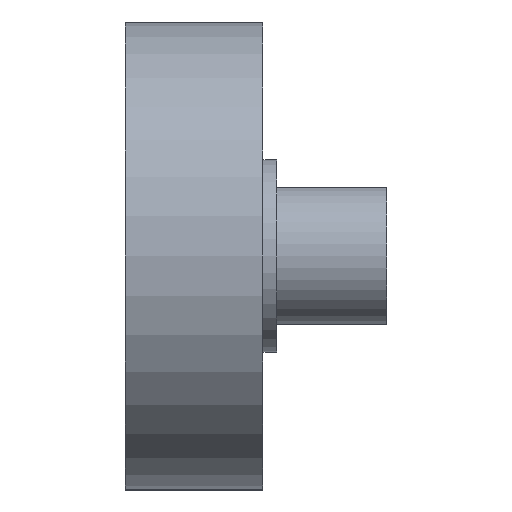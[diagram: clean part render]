
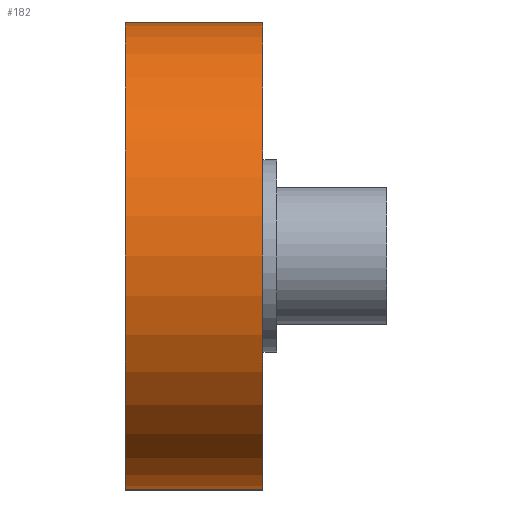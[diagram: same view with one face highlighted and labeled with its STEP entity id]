
A CAD part, left-side view. The second image highlights one B-rep face of the part: STEP entity #182.
In plain terms, the highlighted cylindrical face has radius 17 mm (diameter 34 mm), a partial arc.
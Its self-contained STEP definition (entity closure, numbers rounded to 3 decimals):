
#15=LINE('',#309,#19);
#18=LINE('',#324,#22);
#19=VECTOR('',#252,10.);
#22=VECTOR('',#269,10.);
#47=FACE_OUTER_BOUND('',#66,.T.);
#66=EDGE_LOOP('',(#149,#150,#151,#152));
#86=CIRCLE('',#212,17.);
#87=CIRCLE('',#213,17.);
#97=VERTEX_POINT('',#306);
#98=VERTEX_POINT('',#308);
#102=VERTEX_POINT('',#320);
#103=VERTEX_POINT('',#322);
#113=EDGE_CURVE('',#97,#98,#15,.T.);
#121=EDGE_CURVE('',#102,#103,#18,.T.);
#122=EDGE_CURVE('',#97,#102,#86,.T.);
#123=EDGE_CURVE('',#98,#103,#87,.T.);
#149=ORIENTED_EDGE('',*,*,#122,.T.);
#150=ORIENTED_EDGE('',*,*,#121,.T.);
#151=ORIENTED_EDGE('',*,*,#123,.F.);
#152=ORIENTED_EDGE('',*,*,#113,.F.);
#171=CYLINDRICAL_SURFACE('',#211,17.);
#182=ADVANCED_FACE('',(#47),#171,.T.);
#211=AXIS2_PLACEMENT_3D('',#325,#270,#271);
#212=AXIS2_PLACEMENT_3D('',#326,#272,#273);
#213=AXIS2_PLACEMENT_3D('',#327,#274,#275);
#252=DIRECTION('',(0.,1.,0.));
#269=DIRECTION('',(0.,1.,0.));
#270=DIRECTION('center_axis',(0.,1.,0.));
#271=DIRECTION('ref_axis',(0.328,0.,-0.945));
#272=DIRECTION('center_axis',(0.,1.,0.));
#273=DIRECTION('ref_axis',(0.328,0.,-0.945));
#274=DIRECTION('center_axis',(0.,1.,0.));
#275=DIRECTION('ref_axis',(0.328,0.,-0.945));
#306=CARTESIAN_POINT('',(-84.416,0.,-16.057));
#308=CARTESIAN_POINT('',(-84.416,10.,-16.057));
#309=CARTESIAN_POINT('',(-84.416,0.,-16.057));
#320=CARTESIAN_POINT('',(-84.416,0.,16.057));
#322=CARTESIAN_POINT('',(-84.416,10.,16.057));
#324=CARTESIAN_POINT('',(-84.416,0.,16.057));
#325=CARTESIAN_POINT('Origin',(-90.,0.,0.));
#326=CARTESIAN_POINT('Origin',(-90.,0.,0.));
#327=CARTESIAN_POINT('Origin',(-90.,10.,0.));
